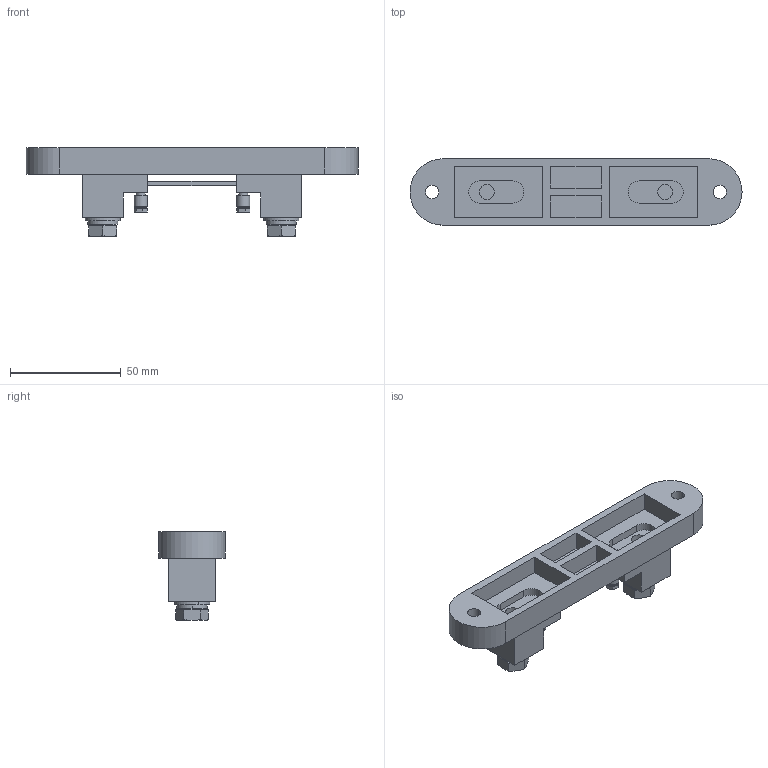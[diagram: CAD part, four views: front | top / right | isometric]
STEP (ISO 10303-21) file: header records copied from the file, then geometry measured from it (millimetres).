
FILE_DESCRIPTION (( 'STEP AP203' ), '1' );
FILE_NAME ('RTBS0100B050Z00.STEP', '2023-12-13T06:12:57', ( 'meks@163.com' ), ( '' ), 'SwSTEP 2.0', 'SolidWorks 2020', '' );
FILE_SCHEMA (( 'CONFIG_CONTROL_DESIGN' ));
Length unit declared in the file: millimetre
Products named in the file (9): plain washers--product grade c gb_GB_FASTENER_WASHER_SMWC 8; single coil lock washers light type gb_GB_FASTENER_WASHER_SSWL 8; RTBS0100B050Z00; hexagon head bolts-full thread gb_GB_FASTENER_BOLT_STBAB A M8X20-S; 萇郯极; single coil lock washers light type gb_GB_FASTENER_WASHER_SSWL 3; 價极001; hexagon head bolts-full thread gb_GB_FASTENER_BOLT_STBAB A M3X6-S; RCBS 200菁釱
Assembly tree (14 placements, depth 2):
  RTBS0100B050Z00
    價极001  x2
    萇郯极
    plain washers--product grade c gb_GB_FASTENER_WASHER_SMWC 8  x2
    single coil lock washers light type gb_GB_FASTENER_WASHER_SSWL 8  x2
    hexagon head bolts-full thread gb_GB_FASTENER_BOLT_STBAB A M8X20-S  x2
    single coil lock washers light type gb_GB_FASTENER_WASHER_SSWL 3  x2
    hexagon head bolts-full thread gb_GB_FASTENER_BOLT_STBAB A M3X6-S  x2
    RCBS 200菁釱
Bounding box: 150 x 30 x 40.15 mm (x, y, z)
Volume: 52231.7 mm3; surface area: 29596.7 mm2
Topology: 14 solids, 14 shells, 775 faces, 1645 edges, 912 vertices
Faces by surface type: cone 396, cylinder 237, plane 142
Entity records: 12190 total; most frequent: DIRECTION 2081, CARTESIAN_POINT 1987, ORIENTED_EDGE 1770, EDGE_CURVE 885, AXIS2_PLACEMENT_3D 813, VERTEX_POINT 499, LINE 455, VECTOR 455
